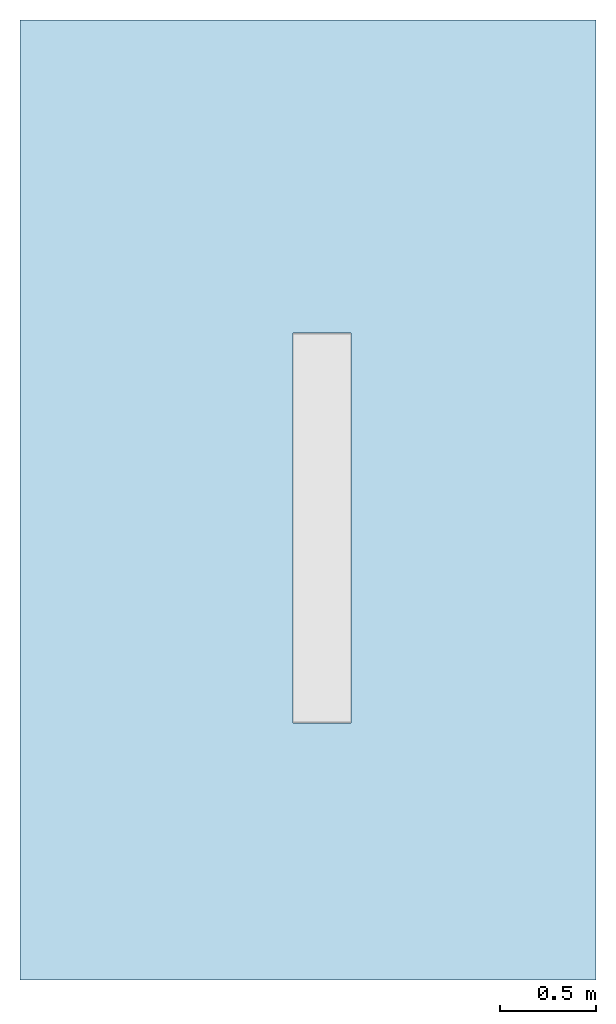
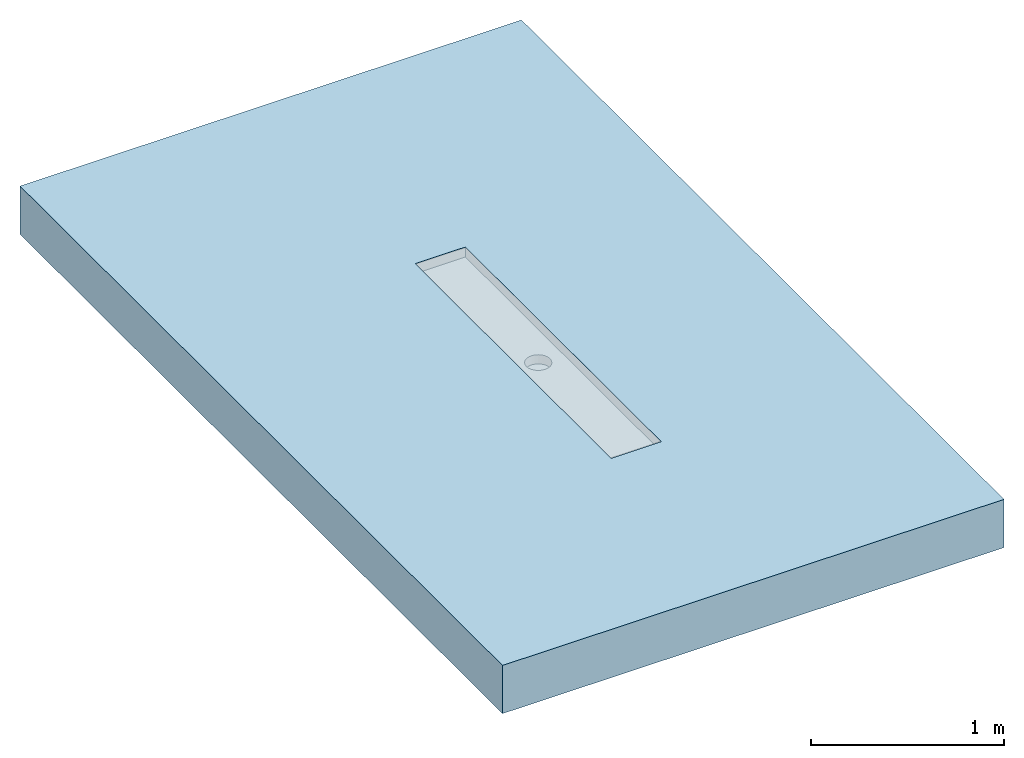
# One storey, incomplete: 1 slab, 1 opening.
"""IFC2X3 building model written with IfcOpenShell, lengths in millimetres."""

from ifc_helpers import new_model, entity, si_unit, converted_unit, derived_unit, direction, frame, frame_2d, origin, place, context, subcontext, project, spatial, rectangle, extrude, faceted_brep, material, layer, layer_set, layer_usage, element, save


model = new_model("IFC2X3")

# Units and contexts
model_context = context("Model", 3, precision=1e-05, world=origin(), true_north=direction((2.0, 6.12303176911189e-17, 1.0)))
context_of_model = context(None, 3, precision=1e-05, world=origin(), true_north=direction((2.0, 6.12303176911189e-17, 1.0)))
body_context = subcontext(model_context, "Body", "Model", "MODEL_VIEW")
ifc_project = project(units=[si_unit("LENGTHUNIT", "METRE", prefix="MILLI"), converted_unit("AREAUNIT", "SQUARE FOOT", entity("IfcRatioMeasure", 0.09290304), si_unit("AREAUNIT", "SQUARE_METRE"), dimensions=[2, 0, 0, 0, 0, 0, 0]), converted_unit("VOLUMEUNIT", "CUBIC FOOT", entity("IfcRatioMeasure", 0.028316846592), si_unit("VOLUMEUNIT", "CUBIC_METRE"), dimensions=[3, 0, 0, 0, 0, 0, 0]), converted_unit("PLANEANGLEUNIT", "DEGREE", entity("IfcRatioMeasure", 0.0174532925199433), si_unit("PLANEANGLEUNIT", "RADIAN"), dimensions=[0, 0, 0, 0, 0, 0, 0]), si_unit("MASSUNIT", "GRAM", prefix="KILO"), si_unit("TIMEUNIT", "SECOND"), si_unit("THERMODYNAMICTEMPERATUREUNIT", "KELVIN"), derived_unit("THERMALTRANSMITTANCEUNIT", [(si_unit("MASSUNIT", "GRAM", prefix="KILO"), 1), (si_unit("THERMODYNAMICTEMPERATUREUNIT", "KELVIN"), -1), (si_unit("TIMEUNIT", "SECOND"), -3)]), derived_unit("VOLUMETRICFLOWRATEUNIT", [(si_unit("LENGTHUNIT", "METRE"), 3), (si_unit("TIMEUNIT", "SECOND"), -1)]), si_unit("POWERUNIT", "WATT")], contexts=[model_context, context_of_model])

# Site, building, storey
site_placement = place(None, origin())
site = spatial("IfcSite", under=ifc_project, at=site_placement, Name="Default", CompositionType="ELEMENT")
building_placement = place(site_placement, origin())
building = spatial("IfcBuilding", under=site, at=building_placement, CompositionType="ELEMENT")
storey_placement = place(building_placement, origin())
storey = spatial("IfcBuildingStorey", under=building, at=storey_placement, Name="Level 1", CompositionType="ELEMENT", Elevation=0.0)

# Slab, opening
ifc_material = material(Name="Default Floor")
ifc_layer = layer(ifc_material, 304.8)
ifc_layer_set = layer_set([ifc_layer], Name="Floor:Generic - 12\"")
ifc_layer_usage = layer_usage(ifc_layer_set, "AXIS3", "POSITIVE", 0.0)
slab_placement = place(storey_placement, frame((-2592.42688678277, 381.838531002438, -304.8)))
slab = element("IfcSlab", 1, at=slab_placement, inside=storey, material=ifc_layer_usage, Name="Floor:Generic - 12\"", ObjectType="Floor:Generic - 12\"", PredefinedType="FLOOR", context=body_context, shape_type="SweptSolid", body=[
    extrude(rectangle(XDim=5000.0, YDim=3000.0, at=frame_2d((0.0, 0.0), x_axis=(0.0, -1.0))), frame((1500.0, 2500.0, 304.8), z_axis=(0.0, 0.0, -1.0), x_axis=(-1.0, 0.0, 0.0)), (0.0, 0.0, 1.0), 304.8),
])
opening_placement = place(slab_placement, frame((1422.76354665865, 1339.16017051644, 184.151793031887)))
element("IfcOpeningElement", 2, at=opening_placement, cuts=slab, ObjectType="Recess", context=body_context, shape_type="Brep", body=[
    faceted_brep([(300.0, 0.0, 57.8482069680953), (300.0, 0.0, 120.648206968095), (0.0, 0.0, 120.648206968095), (0.0, 0.0, 57.8482069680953), (0.0, 2030.0, 57.8482069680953), (0.0, 2030.0, 120.648206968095), (300.0, 2030.0, 120.648206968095), (300.0, 2030.0, 57.8482069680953), (114.499999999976, 953.512196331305, 57.8482069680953), (131.623847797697, 946.419266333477, 57.8482069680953), (99.7954185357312, 964.795418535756, 57.8482069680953), (150.0, 944.0, 57.8482069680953), (79.0, 1015.0, 57.8482069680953), (81.4192663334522, 996.623847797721, 57.8482069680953), (88.5121963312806, 979.5, 57.8482069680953), (168.376152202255, 946.419266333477, 57.8482069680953), (185.499999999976, 953.512196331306, 57.8482069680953), (200.204581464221, 964.795418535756, 57.8482069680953), (211.487803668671, 979.500000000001, 57.8482069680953), (218.5807336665, 996.623847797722, 57.8482069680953), (221.0, 1015.0, 57.8482069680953), (88.5121963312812, 1050.5, 57.8482069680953), (81.4192663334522, 1033.37615220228, 57.8482069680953), (99.7954185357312, 1065.20458146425, 57.8482069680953), (114.499999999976, 1076.4878036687, 57.8482069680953), (131.623847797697, 1083.58073366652, 57.8482069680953), (150.0, 1086.0, 57.8482069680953), (218.5807336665, 1033.37615220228, 57.8482069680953), (211.487803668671, 1050.5, 57.8482069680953), (185.499999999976, 1076.4878036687, 57.8482069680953), (168.376152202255, 1083.58073366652, 57.8482069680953), (200.204581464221, 1065.20458146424, 57.8482069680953), (99.7954185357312, 964.795418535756, 0.0), (150.0, 944.0, 0.0), (131.623847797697, 946.419266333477, 0.0), (114.499999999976, 953.512196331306, 0.0), (168.376152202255, 946.419266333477, 0.0), (131.623847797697, 1083.58073366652, 0.0), (88.5121963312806, 979.500000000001, 0.0), (200.204581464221, 964.795418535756, 0.0), (185.499999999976, 953.512196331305, 0.0), (218.5807336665, 1033.37615220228, 0.0), (211.487803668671, 979.500000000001, 0.0), (218.5807336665, 996.623847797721, 0.0), (221.0, 1015.0, 0.0), (185.499999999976, 1076.4878036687, 0.0), (81.4192663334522, 996.623847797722, 0.0), (81.4192663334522, 1033.37615220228, 0.0), (88.5121963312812, 1050.5, 0.0), (99.7954185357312, 1065.20458146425, 0.0), (114.499999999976, 1076.4878036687, 0.0), (150.0, 1086.0, 0.0), (200.204581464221, 1065.20458146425, 0.0), (211.487803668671, 1050.5, 0.0), (168.376152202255, 1083.58073366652, 0.0), (79.0, 1015.0, 0.0)], [[[0, 1, 2]], [[2, 3, 0]], [[4, 5, 6]], [[6, 7, 4]], [[2, 1, 5]], [[6, 5, 1]], [[3, 2, 4]], [[5, 4, 2]], [[3, 8, 9]], [[8, 3, 10]], [[3, 9, 11]], [[12, 13, 3]], [[14, 10, 3]], [[13, 14, 3]], [[3, 4, 12]], [[0, 11, 15]], [[11, 0, 3]], [[0, 15, 16]], [[16, 17, 0]], [[18, 19, 0]], [[17, 18, 0]], [[0, 19, 20]], [[21, 22, 4]], [[23, 21, 4]], [[24, 4, 25]], [[4, 24, 23]], [[26, 25, 4]], [[4, 7, 26]], [[22, 12, 4]], [[27, 28, 7]], [[20, 27, 7]], [[29, 30, 7]], [[31, 7, 28]], [[7, 31, 29]], [[30, 26, 7]], [[20, 7, 0]], [[1, 0, 6]], [[7, 6, 0]], [[32, 33, 34]], [[32, 34, 35]], [[36, 33, 37]], [[32, 37, 33]], [[37, 32, 38]], [[36, 39, 40]], [[39, 41, 42]], [[42, 41, 43]], [[44, 43, 41]], [[45, 39, 36]], [[38, 46, 47]], [[47, 48, 38]], [[48, 37, 38]], [[49, 50, 37]], [[49, 37, 48]], [[36, 37, 51]], [[41, 52, 53]], [[52, 41, 45]], [[45, 51, 54]], [[41, 39, 45]], [[51, 45, 36]], [[55, 47, 46]], [[41, 27, 44]], [[53, 28, 41]], [[54, 51, 30]], [[52, 31, 53]], [[41, 28, 27]], [[27, 20, 44]], [[45, 29, 31]], [[29, 45, 30]], [[45, 54, 30]], [[31, 28, 53]], [[31, 52, 45]], [[51, 26, 30]], [[25, 37, 50]], [[49, 24, 50]], [[21, 48, 47]], [[49, 48, 23]], [[22, 47, 55]], [[37, 25, 26]], [[50, 24, 25]], [[49, 23, 24]], [[48, 21, 23]], [[22, 21, 47]], [[55, 12, 22]], [[37, 26, 51]], [[46, 13, 55]], [[38, 14, 46]], [[32, 35, 8]], [[38, 32, 10]], [[46, 14, 13]], [[13, 12, 55]], [[11, 9, 34]], [[9, 8, 35]], [[10, 32, 8]], [[10, 14, 38]], [[34, 9, 35]], [[34, 33, 11]], [[15, 36, 40]], [[39, 16, 40]], [[18, 42, 43]], [[39, 42, 17]], [[19, 43, 44]], [[36, 15, 11]], [[40, 16, 15]], [[39, 17, 16]], [[42, 18, 17]], [[19, 18, 43]], [[44, 20, 19]], [[36, 11, 33]]]),
])

save(model, "model.ifc")
